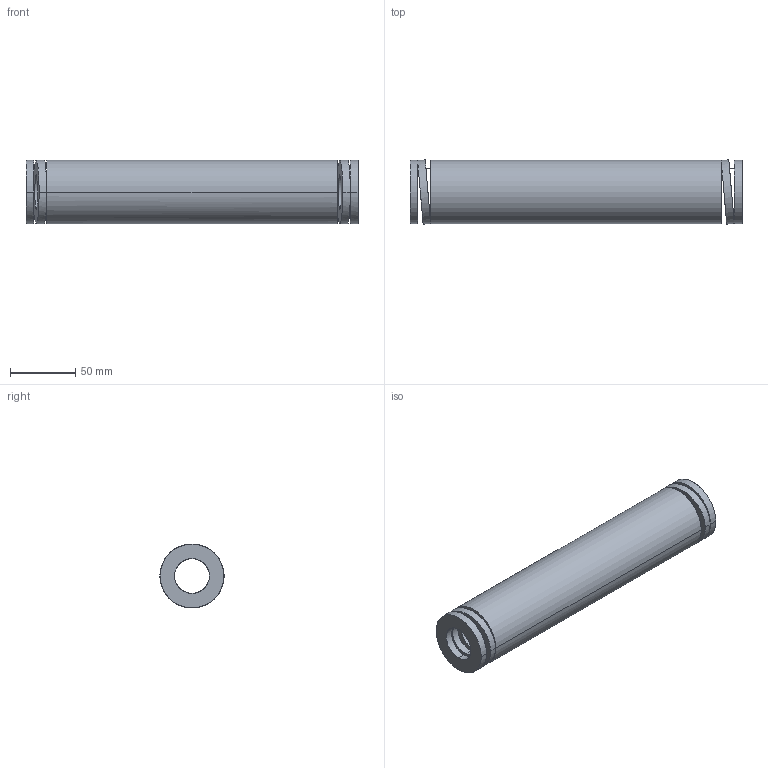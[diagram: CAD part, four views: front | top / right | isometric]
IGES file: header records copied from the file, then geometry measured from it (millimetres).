
Start section: START RECORD GO HERE.
Global section: file name: 392-B50-254.igs; native system: DASSAULT SYSTEMES CATIA V5 R20 - www.3ds.com; preprocessor: CATIA Version 5 Release 20 ; author: Utente; organization: NB04-ASUS; date: 20210813.132341; units: millimetre
Bounding box: 254 x 49.12 x 48.8 mm (x, y, z)
Surface area: 71276.5 mm2 (no closed solid volume)
Topology: 0 solids, 0 shells, 38 faces, 184 edges, 184 vertices
Faces by surface type: revolution 28, plane 10
